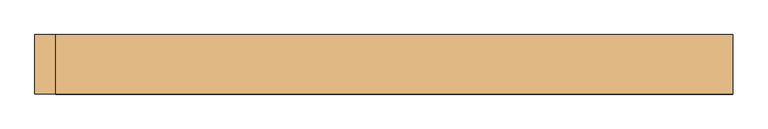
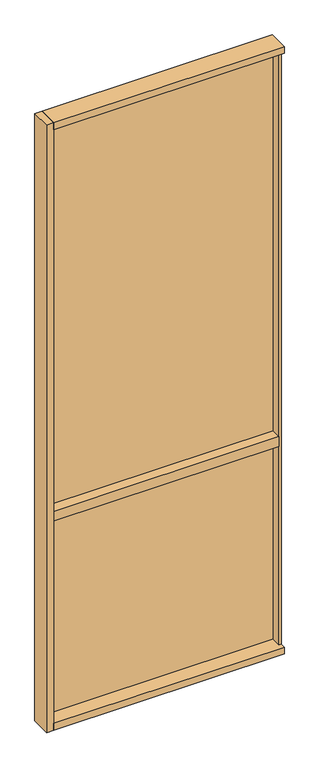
"""IFC4 building model written with IfcOpenShell, lengths in millimetres: door geometry, Mobiliário_Mobiliário de Escritório_Painel Lambri - ACML (Inicial e Final)_Marelli : ACML."""

from ifc_helpers import new_model, si_unit, frame, origin, origin_with_axes, place, context, project, spatial, polyline, outline, extrude, source, transform, mapped, element, save


def door_339503d6(model_context):
    return source(origin(), model_context, "Body", "SweptSolid", [
        extrude(outline(polyline([(500.0, 42.5), (500.0, -42.5), (-470.0, -42.5), (-470.0, 42.5), (500.0, 42.5)])), origin_with_axes(), (0.0, 0.0, 1.0), 30.0),
        extrude(outline(polyline([(490.0, 39.5), (490.0, 21.5), (-470.0, 21.5), (-470.0, 39.5), (490.0, 39.5)])), frame((0.0, 0.0, 30.0), z_axis=(0.0, 0.0, 1.0), x_axis=(1.0, 0.0, 0.0)), (0.0, 0.0, 1.0), 900.0),
        extrude(outline(polyline([(490.0, 21.5), (490.0, -21.5), (-470.0, -21.5), (-470.0, 21.5), (490.0, 21.5)])), frame((0.0, 0.0, 913.5), z_axis=(0.0, 0.0, 1.0), x_axis=(1.0, 0.0, 0.0)), (0.0, 0.0, 1.0), 43.0),
        extrude(outline(polyline([(500.0, 42.5), (500.0, -42.5), (-470.0, -42.5), (-470.0, 42.5), (500.0, 42.5)])), frame((0.0, 0.0, 2670.0), z_axis=(0.0, 0.0, 1.0), x_axis=(1.0, 0.0, 0.0)), (0.0, 0.0, 1.0), 30.0),
        extrude(outline(polyline([(-500.0, -42.5), (-500.0, 42.5), (-470.0, 42.5), (-470.0, -42.5), (-500.0, -42.5)])), origin_with_axes(), (0.0, 0.0, 1.0), 2700.0),
        extrude(outline(polyline([(500.0, -21.5), (490.0, -21.5), (490.0, 21.5), (500.0, 21.5), (500.0, -21.5)])), frame((0.0, 0.0, 30.0), z_axis=(0.0, 0.0, 1.0), x_axis=(1.0, 0.0, 0.0)), (0.0, 0.0, 1.0), 2640.0),
        extrude(outline(polyline([(490.0, 39.5), (490.0, 21.5), (-470.0, 21.5), (-470.0, 39.5), (490.0, 39.5)])), frame((0.0, 0.0, 940.0), z_axis=(0.0, 0.0, 1.0), x_axis=(1.0, 0.0, 0.0)), (0.0, 0.0, 1.0), 1730.0),
    ])


if __name__ == "__main__":
    model = new_model("IFC4")
    model_context = context("Model", 3, world=origin())
    ifc_project = project(units=[si_unit("LENGTHUNIT", "METRE", prefix="MILLI")], contexts=[model_context])
    site = spatial("IfcSite", under=ifc_project)
    building = spatial("IfcBuilding", under=site)
    placement = place(None, origin())
    door_shape = door_339503d6(model_context)
    element("IfcDoor", 1, ObjectType="Mobiliário_Mobiliário de Escritório_Painel Lambri - ACML (Inicial e Final)_Marelli : ACML", at=placement, inside=building, context=model_context, shape_type="MappedRepresentation", body=[
        mapped(door_shape, transform((0.0, 0.0, 0.0), x_axis=(1.0, 0.0, 0.0), y_axis=(0.0, 1.0, 0.0), z_axis=(0.0, 0.0, 1.0))),
    ])
    save(model, "model.ifc")
